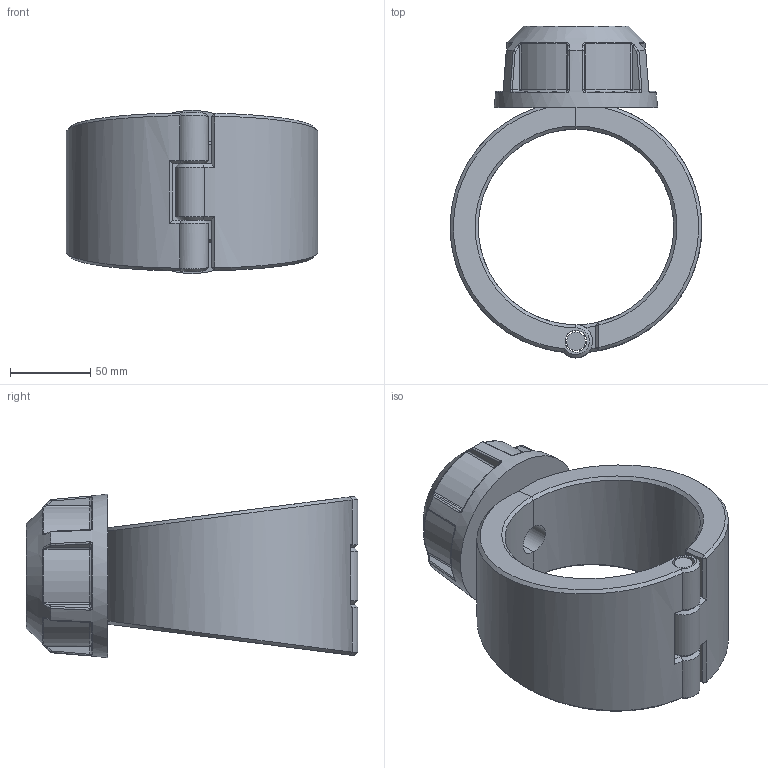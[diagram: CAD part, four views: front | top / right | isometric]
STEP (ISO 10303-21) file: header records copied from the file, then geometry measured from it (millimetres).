
FILE_DESCRIPTION(/* description */ ('Plassadle Threaded 122x1 1/4'''''),/* implementation_level */ '2;1');
FILE_NAME(/* name */ 'C:\Users\comp2\Dropbox\99-16-3568-Processing\Mechanical Fittings\16300\stp\163000122013.stp',/* time_stamp */ '2022-02-03T11:50:16+00:00',/* author */ ('comp2'),/* organization */ (''),/* preprocessor_version */ 'ST-DEVELOPER v17.2',/* originating_system */ 'Autodesk Inventor 2019',/* authorisation */ '');
FILE_SCHEMA (('AUTOMOTIVE_DESIGN { 1 0 10303 214 3 1 1 }'));
Length unit declared in the file: millimetre
Products named in the file (1): 163000122013
Bounding box: 156.99 x 207 x 102 mm (x, y, z)
Volume: 848251.5 mm3; surface area: 128886.6 mm2
Topology: 4 solids, 4 shells, 203 faces, 486 edges, 293 vertices
Faces by surface type: bspline 58, plane 53, cylinder 47, torus 18, cone 15, sphere 12
Full cylindrical faces by diameter (mm): 11.64 x1, 13.64 x3, 19.476 x1, 33.109 x1, 38.952 x1, 58.428 x1
Entity records: 8226 total; most frequent: CARTESIAN_POINT 3879, ORIENTED_EDGE 972, DIRECTION 781, EDGE_CURVE 486, AXIS2_PLACEMENT_3D 330, VERTEX_POINT 293, EDGE_LOOP 213, FACE_OUTER_BOUND 203
